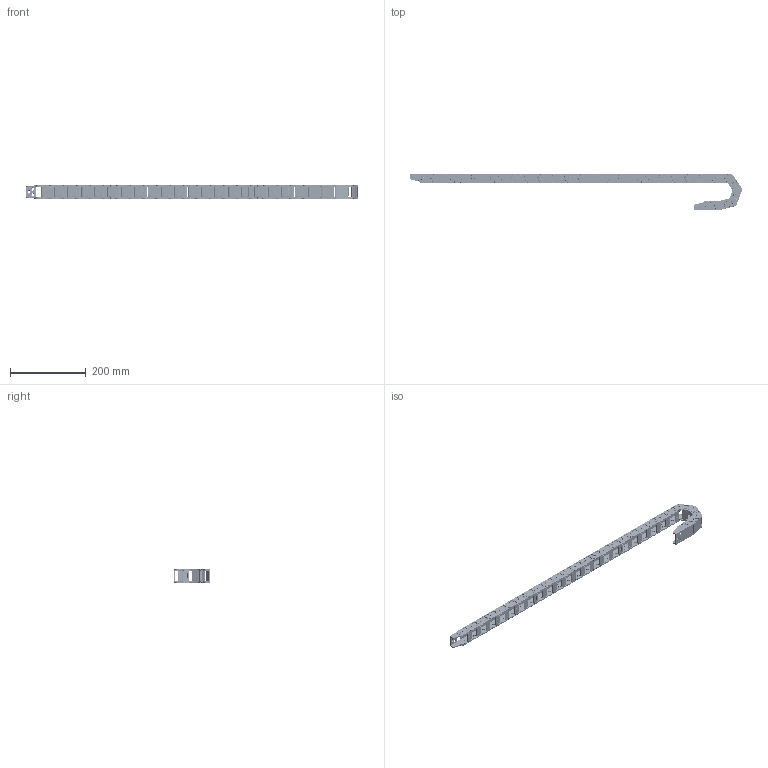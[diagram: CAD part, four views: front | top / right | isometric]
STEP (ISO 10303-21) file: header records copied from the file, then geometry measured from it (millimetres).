
FILE_DESCRIPTION(/* description */ (''),/* implementation_level */ '2;1');
FILE_NAME(/* name */ 'BF18x25R38.prt.stp',/* time_stamp */ '2022-11-17T15:13:03+08:00',/* author */ (''),/* organization */ (''),/* preprocessor_version */ 'ST-DEVELOPER v16',/* originating_system */ 'SIEMENS PLM Software NX 10.0',/* authorisation */ '');
FILE_SCHEMA (('CONFIG_CONTROL_DESIGN'));
Products named in the file (1): BF18x25R38
Bounding box: 874.62 x 94.31 x 36.7 mm (x, y, z)
Volume: 282143.4 mm3; surface area: 266790.4 mm2
Topology: 56 solids, 56 shells, 15026 faces, 40218 edges, 26247 vertices
Faces by surface type: plane 7616, bspline 3167, cylinder 2874, torus 834, extrusion 513, cone 18, sphere 4
Full cylindrical faces by diameter (mm): 4 x54
Entity records: 631477 total; most frequent: CARTESIAN_POINT 276664, ORIENTED_EDGE 79946, DIRECTION 62169, EDGE_CURVE 39973, VERTEX_POINT 26193, VECTOR 25459, LINE 24946, AXIS2_PLACEMENT_3D 18355
